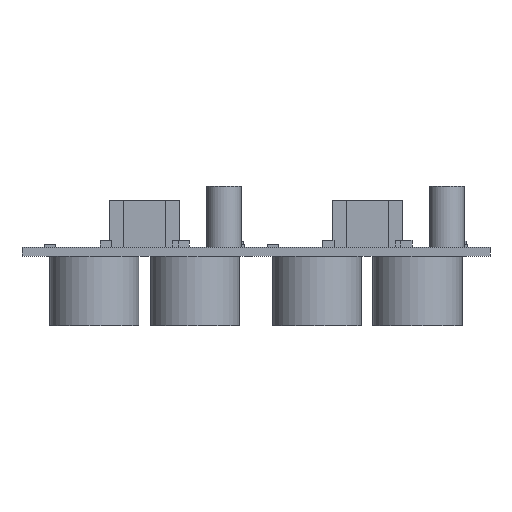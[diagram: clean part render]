
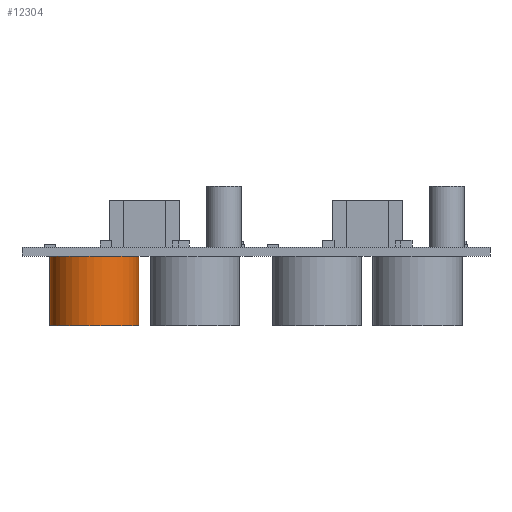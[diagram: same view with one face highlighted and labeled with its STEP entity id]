
A CAD part, front view. The second image highlights one B-rep face of the part: STEP entity #12304.
In plain terms, the highlighted cylindrical face has radius 8 mm (diameter 16 mm), a full revolution.
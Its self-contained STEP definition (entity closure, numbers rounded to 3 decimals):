
#12304 = ADVANCED_FACE('',(#12305),#12318,.T.);
#12305 = FACE_BOUND('',#12306,.T.);
#12306 = EDGE_LOOP('',(#12307,#12341,#12364,#12391));
#12307 = ORIENTED_EDGE('',*,*,#12308,.T.);
#12308 = EDGE_CURVE('',#12309,#12309,#12311,.T.);
#12309 = VERTEX_POINT('',#12310);
#12310 = CARTESIAN_POINT('',(8.,0.,-12.5));
#12311 = SURFACE_CURVE('',#12312,(#12317,#12329),.PCURVE_S1.);
#12312 = CIRCLE('',#12313,8.);
#12313 = AXIS2_PLACEMENT_3D('',#12314,#12315,#12316);
#12314 = CARTESIAN_POINT('',(0.,0.,-12.5));
#12315 = DIRECTION('',(0.,0.,1.));
#12316 = DIRECTION('',(1.,0.,-0.));
#12317 = PCURVE('',#12318,#12323);
#12318 = CYLINDRICAL_SURFACE('',#12319,8.);
#12319 = AXIS2_PLACEMENT_3D('',#12320,#12321,#12322);
#12320 = CARTESIAN_POINT('',(0.,0.,-12.5));
#12321 = DIRECTION('',(-0.,-0.,-1.));
#12322 = DIRECTION('',(1.,0.,0.));
#12323 = DEFINITIONAL_REPRESENTATION('',(#12324),#12328);
#12324 = LINE('',#12325,#12326);
#12325 = CARTESIAN_POINT('',(6.283,0.));
#12326 = VECTOR('',#12327,1.);
#12327 = DIRECTION('',(-1.,0.));
#12328 = ( GEOMETRIC_REPRESENTATION_CONTEXT(2) 
PARAMETRIC_REPRESENTATION_CONTEXT() REPRESENTATION_CONTEXT('2D SPACE',''
  ) );
#12329 = PCURVE('',#12330,#12335);
#12330 = PLANE('',#12331);
#12331 = AXIS2_PLACEMENT_3D('',#12332,#12333,#12334);
#12332 = CARTESIAN_POINT('',(0.,0.,
    -12.5));
#12333 = DIRECTION('',(0.,0.,1.));
#12334 = DIRECTION('',(1.,0.,-0.));
#12335 = DEFINITIONAL_REPRESENTATION('',(#12336),#12340);
#12336 = CIRCLE('',#12337,8.);
#12337 = AXIS2_PLACEMENT_2D('',#12338,#12339);
#12338 = CARTESIAN_POINT('',(0.,0.));
#12339 = DIRECTION('',(1.,0.));
#12340 = ( GEOMETRIC_REPRESENTATION_CONTEXT(2) 
PARAMETRIC_REPRESENTATION_CONTEXT() REPRESENTATION_CONTEXT('2D SPACE',''
  ) );
#12341 = ORIENTED_EDGE('',*,*,#12342,.T.);
#12342 = EDGE_CURVE('',#12309,#12343,#12345,.T.);
#12343 = VERTEX_POINT('',#12344);
#12344 = CARTESIAN_POINT('',(8.,0.,0.));
#12345 = SEAM_CURVE('',#12346,(#12350,#12357),.PCURVE_S1.);
#12346 = LINE('',#12347,#12348);
#12347 = CARTESIAN_POINT('',(8.,0.,-12.5));
#12348 = VECTOR('',#12349,1.);
#12349 = DIRECTION('',(0.,0.,1.));
#12350 = PCURVE('',#12318,#12351);
#12351 = DEFINITIONAL_REPRESENTATION('',(#12352),#12356);
#12352 = LINE('',#12353,#12354);
#12353 = CARTESIAN_POINT('',(0.,0.));
#12354 = VECTOR('',#12355,1.);
#12355 = DIRECTION('',(-0.,-1.));
#12356 = ( GEOMETRIC_REPRESENTATION_CONTEXT(2) 
PARAMETRIC_REPRESENTATION_CONTEXT() REPRESENTATION_CONTEXT('2D SPACE',''
  ) );
#12357 = PCURVE('',#12318,#12358);
#12358 = DEFINITIONAL_REPRESENTATION('',(#12359),#12363);
#12359 = LINE('',#12360,#12361);
#12360 = CARTESIAN_POINT('',(6.283,0.));
#12361 = VECTOR('',#12362,1.);
#12362 = DIRECTION('',(-0.,-1.));
#12363 = ( GEOMETRIC_REPRESENTATION_CONTEXT(2) 
PARAMETRIC_REPRESENTATION_CONTEXT() REPRESENTATION_CONTEXT('2D SPACE',''
  ) );
#12364 = ORIENTED_EDGE('',*,*,#12365,.F.);
#12365 = EDGE_CURVE('',#12343,#12343,#12366,.T.);
#12366 = SURFACE_CURVE('',#12367,(#12372,#12379),.PCURVE_S1.);
#12367 = CIRCLE('',#12368,8.);
#12368 = AXIS2_PLACEMENT_3D('',#12369,#12370,#12371);
#12369 = CARTESIAN_POINT('',(0.,0.,0.));
#12370 = DIRECTION('',(0.,0.,1.));
#12371 = DIRECTION('',(1.,0.,-0.));
#12372 = PCURVE('',#12318,#12373);
#12373 = DEFINITIONAL_REPRESENTATION('',(#12374),#12378);
#12374 = LINE('',#12375,#12376);
#12375 = CARTESIAN_POINT('',(6.283,-12.5));
#12376 = VECTOR('',#12377,1.);
#12377 = DIRECTION('',(-1.,0.));
#12378 = ( GEOMETRIC_REPRESENTATION_CONTEXT(2) 
PARAMETRIC_REPRESENTATION_CONTEXT() REPRESENTATION_CONTEXT('2D SPACE',''
  ) );
#12379 = PCURVE('',#12380,#12385);
#12380 = PLANE('',#12381);
#12381 = AXIS2_PLACEMENT_3D('',#12382,#12383,#12384);
#12382 = CARTESIAN_POINT('',(0.,0.,0.)
  );
#12383 = DIRECTION('',(0.,0.,1.));
#12384 = DIRECTION('',(1.,0.,-0.));
#12385 = DEFINITIONAL_REPRESENTATION('',(#12386),#12390);
#12386 = CIRCLE('',#12387,8.);
#12387 = AXIS2_PLACEMENT_2D('',#12388,#12389);
#12388 = CARTESIAN_POINT('',(0.,0.));
#12389 = DIRECTION('',(1.,0.));
#12390 = ( GEOMETRIC_REPRESENTATION_CONTEXT(2) 
PARAMETRIC_REPRESENTATION_CONTEXT() REPRESENTATION_CONTEXT('2D SPACE',''
  ) );
#12391 = ORIENTED_EDGE('',*,*,#12342,.F.);
